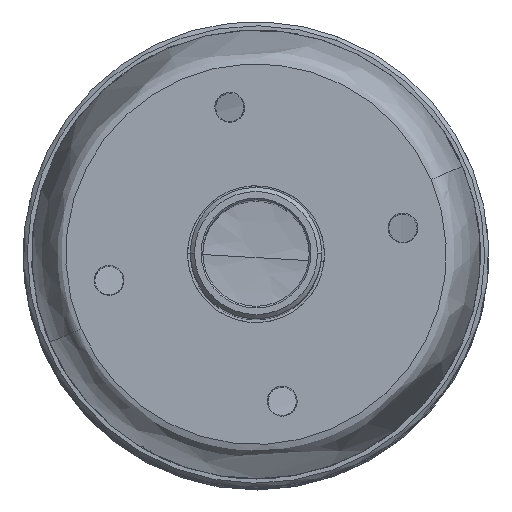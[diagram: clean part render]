
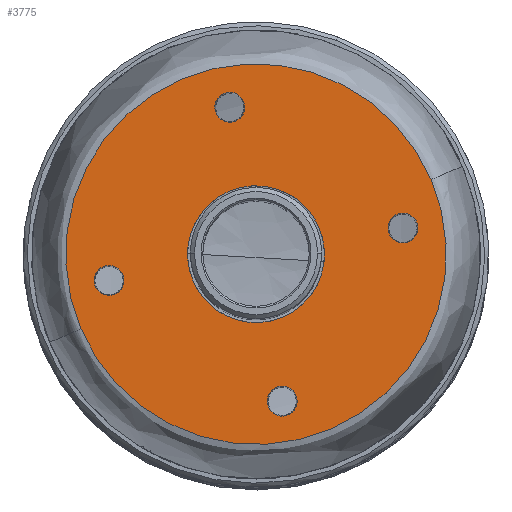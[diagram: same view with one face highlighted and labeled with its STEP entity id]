
A CAD part, top view. The second image highlights one B-rep face of the part: STEP entity #3775.
In plain terms, the highlighted planar face has unit normal (0, 0, 1).
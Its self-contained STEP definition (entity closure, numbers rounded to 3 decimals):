
#3254 = EDGE_CURVE ( 'NONE', #3255, #3287, #5680, .T. ) ;
#3255 = VERTEX_POINT ( 'NONE', #5675 ) ;
#3256 = VERTEX_POINT ( 'NONE', #5674 ) ;
#3269 = EDGE_CURVE ( 'NONE', #3288, #3256, #5764, .T. ) ;
#3276 = VERTEX_POINT ( 'NONE', #5746 ) ;
#3287 = VERTEX_POINT ( 'NONE', #5803 ) ;
#3288 = VERTEX_POINT ( 'NONE', #5802 ) ;
#3293 = EDGE_CURVE ( 'NONE', #3294, #3276, #5815, .T. ) ;
#3294 = VERTEX_POINT ( 'NONE', #5816 ) ;
#3325 = VERTEX_POINT ( 'NONE', #5930 ) ;
#3327 = EDGE_CURVE ( 'NONE', #3328, #3325, #5883, .T. ) ;
#3328 = VERTEX_POINT ( 'NONE', #5880 ) ;
#3355 = EDGE_CURVE ( 'NONE', #3325, #3328, #6092, .T. ) ;
#3373 = EDGE_CURVE ( 'NONE', #3424, #3427, #5960, .T. ) ;
#3383 = EDGE_CURVE ( 'NONE', #3455, #3458, #6034, .T. ) ;
#3424 = VERTEX_POINT ( 'NONE', #6220 ) ;
#3426 = EDGE_CURVE ( 'NONE', #3427, #3424, #6219, .T. ) ;
#3427 = VERTEX_POINT ( 'NONE', #6214 ) ;
#3455 = VERTEX_POINT ( 'NONE', #6271 ) ;
#3457 = EDGE_CURVE ( 'NONE', #3458, #3455, #6306, .T. ) ;
#3458 = VERTEX_POINT ( 'NONE', #6302 ) ;
#3562 = ORIENTED_EDGE ( 'NONE', *, *, #3269, .T. ) ;
#3563 = ORIENTED_EDGE ( 'NONE', *, *, #3564, .T. ) ;
#3564 = EDGE_CURVE ( 'NONE', #3256, #3288, #6596, .T. ) ;
#3565 = EDGE_LOOP ( 'NONE', ( #3715, #3716 ) ) ;
#3566 = ORIENTED_EDGE ( 'NONE', *, *, #3678, .T. ) ;
#3567 = ORIENTED_EDGE ( 'NONE', *, *, #3457, .T. ) ;
#3568 = ORIENTED_EDGE ( 'NONE', *, *, #3383, .T. ) ;
#3569 = EDGE_LOOP ( 'NONE', ( #3562, #3563 ) ) ;
#3584 = EDGE_LOOP ( 'NONE', ( #3585, #3566 ) ) ;
#3585 = ORIENTED_EDGE ( 'NONE', *, *, #3293, .T. ) ;
#3586 = EDGE_LOOP ( 'NONE', ( #3567, #3568 ) ) ;
#3619 = EDGE_LOOP ( 'NONE', ( #3630, #3712 ) ) ;
#3630 = ORIENTED_EDGE ( 'NONE', *, *, #3426, .T. ) ;
#3678 = EDGE_CURVE ( 'NONE', #3276, #3294, #6976, .T. ) ;
#3706 = ORIENTED_EDGE ( 'NONE', *, *, #3254, .T. ) ;
#3707 = ORIENTED_EDGE ( 'NONE', *, *, #3774, .T. ) ;
#3712 = ORIENTED_EDGE ( 'NONE', *, *, #3373, .T. ) ;
#3715 = ORIENTED_EDGE ( 'NONE', *, *, #3327, .T. ) ;
#3716 = ORIENTED_EDGE ( 'NONE', *, *, #3355, .T. ) ;
#3774 = EDGE_CURVE ( 'NONE', #3287, #3255, #7331, .T. ) ;
#3775 = ADVANCED_FACE ( 'NONE', ( #7326, #7325, #7324, #7323, #7322, #7321 ), #7306, .T. ) ;
#3776 = EDGE_LOOP ( 'NONE', ( #3706, #3707 ) ) ;
#5674 = CARTESIAN_POINT ( 'NONE',  ( 28.69, 0.795, 0. ) ) ;
#5675 = CARTESIAN_POINT ( 'NONE',  ( 32.408, 23.353, 0. ) ) ;
#5676 = DIRECTION ( 'NONE',  ( 0.92, 0.392, 0. ) ) ;
#5677 = DIRECTION ( 'NONE',  ( 0., 0., -1. ) ) ;
#5678 = CARTESIAN_POINT ( 'NONE',  ( 24.834, 20.124, 0. ) ) ;
#5679 = AXIS2_PLACEMENT_3D ( 'NONE', #5678, #5677, #5676 ) ;
#5680 = CIRCLE ( 'NONE', #5679, 8.234 ) ;
#5746 = CARTESIAN_POINT ( 'NONE',  ( 3.784, 11.147, 0. ) ) ;
#5764 = CIRCLE ( 'NONE', #5784, 1.8 ) ;
#5778 = DIRECTION ( 'NONE',  ( -0.392, 0.92, 0. ) ) ;
#5779 = DIRECTION ( 'NONE',  ( 0., 0., -1. ) ) ;
#5780 = CARTESIAN_POINT ( 'NONE',  ( 27.984, 2.451, 0. ) ) ;
#5784 = AXIS2_PLACEMENT_3D ( 'NONE', #5780, #5779, #5778 ) ;
#5802 = CARTESIAN_POINT ( 'NONE',  ( 27.278, 4.106, 0. ) ) ;
#5803 = CARTESIAN_POINT ( 'NONE',  ( 17.261, 16.894, 0. ) ) ;
#5811 = DIRECTION ( 'NONE',  ( 0.92, 0.392, 0. ) ) ;
#5812 = DIRECTION ( 'NONE',  ( 0., 0., 1. ) ) ;
#5813 = CARTESIAN_POINT ( 'NONE',  ( 24.834, 20.124, 0. ) ) ;
#5814 = AXIS2_PLACEMENT_3D ( 'NONE', #5813, #5812, #5811 ) ;
#5815 = CIRCLE ( 'NONE', #5814, 22.885 ) ;
#5816 = CARTESIAN_POINT ( 'NONE',  ( 45.885, 29.1, 0. ) ) ;
#5880 = CARTESIAN_POINT ( 'NONE',  ( 40.852, 22.567, 0. ) ) ;
#5881 = DIRECTION ( 'NONE',  ( -0.92, -0.392, 0. ) ) ;
#5882 = DIRECTION ( 'NONE',  ( 0., 0., -1. ) ) ;
#5883 = CIRCLE ( 'NONE', #5928, 1.8 ) ;
#5927 = CARTESIAN_POINT ( 'NONE',  ( 42.507, 23.273, 0. ) ) ;
#5928 = AXIS2_PLACEMENT_3D ( 'NONE', #5927, #5882, #5881 ) ;
#5930 = CARTESIAN_POINT ( 'NONE',  ( 44.163, 23.98, 0. ) ) ;
#5956 = DIRECTION ( 'NONE',  ( 0.392, -0.92, 0. ) ) ;
#5957 = DIRECTION ( 'NONE',  ( 0., 0., -1. ) ) ;
#5958 = CARTESIAN_POINT ( 'NONE',  ( 21.684, 37.797, 0. ) ) ;
#5959 = AXIS2_PLACEMENT_3D ( 'NONE', #5958, #5957, #5956 ) ;
#5960 = CIRCLE ( 'NONE', #5959, 1.8 ) ;
#6030 = DIRECTION ( 'NONE',  ( 0.92, 0.392, 0. ) ) ;
#6031 = DIRECTION ( 'NONE',  ( 0., 0., -1. ) ) ;
#6032 = CARTESIAN_POINT ( 'NONE',  ( 7.161, 16.974, 0. ) ) ;
#6033 = AXIS2_PLACEMENT_3D ( 'NONE', #6032, #6031, #6030 ) ;
#6034 = CIRCLE ( 'NONE', #6033, 1.8 ) ;
#6088 = DIRECTION ( 'NONE',  ( -0.92, -0.392, 0. ) ) ;
#6089 = DIRECTION ( 'NONE',  ( 0., 0., -1. ) ) ;
#6090 = CARTESIAN_POINT ( 'NONE',  ( 42.507, 23.273, 0. ) ) ;
#6091 = AXIS2_PLACEMENT_3D ( 'NONE', #6090, #6089, #6088 ) ;
#6092 = CIRCLE ( 'NONE', #6091, 1.8 ) ;
#6214 = CARTESIAN_POINT ( 'NONE',  ( 22.391, 36.141, 0. ) ) ;
#6215 = DIRECTION ( 'NONE',  ( 0.392, -0.92, 0. ) ) ;
#6216 = DIRECTION ( 'NONE',  ( 0., 0., -1. ) ) ;
#6217 = CARTESIAN_POINT ( 'NONE',  ( 21.684, 37.797, 0. ) ) ;
#6218 = AXIS2_PLACEMENT_3D ( 'NONE', #6217, #6216, #6215 ) ;
#6219 = CIRCLE ( 'NONE', #6218, 1.8 ) ;
#6220 = CARTESIAN_POINT ( 'NONE',  ( 20.978, 39.452, 0. ) ) ;
#6270 = CARTESIAN_POINT ( 'NONE',  ( 7.161, 16.974, 0. ) ) ;
#6271 = CARTESIAN_POINT ( 'NONE',  ( 5.506, 16.268, 0. ) ) ;
#6302 = CARTESIAN_POINT ( 'NONE',  ( 8.817, 17.68, 0. ) ) ;
#6303 = DIRECTION ( 'NONE',  ( 0.92, 0.392, 0. ) ) ;
#6304 = DIRECTION ( 'NONE',  ( 0., 0., -1. ) ) ;
#6305 = AXIS2_PLACEMENT_3D ( 'NONE', #6270, #6304, #6303 ) ;
#6306 = CIRCLE ( 'NONE', #6305, 1.8 ) ;
#6592 = DIRECTION ( 'NONE',  ( -0.392, 0.92, 0. ) ) ;
#6593 = DIRECTION ( 'NONE',  ( 0., 0., -1. ) ) ;
#6594 = CARTESIAN_POINT ( 'NONE',  ( 27.984, 2.451, 0. ) ) ;
#6595 = AXIS2_PLACEMENT_3D ( 'NONE', #6594, #6593, #6592 ) ;
#6596 = CIRCLE ( 'NONE', #6595, 1.8 ) ;
#6916 = DIRECTION ( 'NONE',  ( 0.92, 0.392, 0. ) ) ;
#6973 = DIRECTION ( 'NONE',  ( 0., 0., 1. ) ) ;
#6974 = CARTESIAN_POINT ( 'NONE',  ( 24.834, 20.124, 0. ) ) ;
#6975 = AXIS2_PLACEMENT_3D ( 'NONE', #6974, #6973, #6916 ) ;
#6976 = CIRCLE ( 'NONE', #6975, 22.885 ) ;
#7302 = DIRECTION ( 'NONE',  ( -0.586, -0.81, 0. ) ) ;
#7303 = DIRECTION ( 'NONE',  ( 0., 0., 1. ) ) ;
#7304 = CARTESIAN_POINT ( 'NONE',  ( 24.834, 20.124, 0. ) ) ;
#7305 = AXIS2_PLACEMENT_3D ( 'NONE', #7304, #7303, #7302 ) ;
#7306 = PLANE ( 'NONE',  #7305 ) ;
#7321 = FACE_BOUND ( 'NONE', #3619, .T. ) ;
#7322 = FACE_BOUND ( 'NONE', #3565, .T. ) ;
#7323 = FACE_BOUND ( 'NONE', #3569, .T. ) ;
#7324 = FACE_BOUND ( 'NONE', #3586, .T. ) ;
#7325 = FACE_OUTER_BOUND ( 'NONE', #3584, .T. ) ;
#7326 = FACE_BOUND ( 'NONE', #3776, .T. ) ;
#7327 = DIRECTION ( 'NONE',  ( 0.92, 0.392, 0. ) ) ;
#7328 = DIRECTION ( 'NONE',  ( 0., 0., -1. ) ) ;
#7329 = CARTESIAN_POINT ( 'NONE',  ( 24.834, 20.124, 0. ) ) ;
#7330 = AXIS2_PLACEMENT_3D ( 'NONE', #7329, #7328, #7327 ) ;
#7331 = CIRCLE ( 'NONE', #7330, 8.234 ) ;
